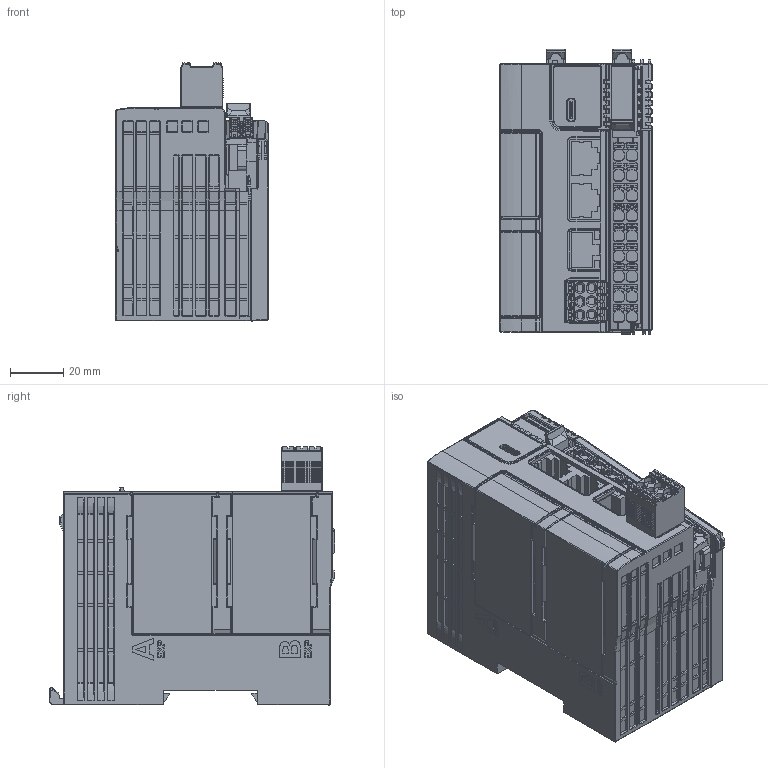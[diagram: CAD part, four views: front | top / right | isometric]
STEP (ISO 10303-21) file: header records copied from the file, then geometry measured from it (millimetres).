
FILE_DESCRIPTION((''),'2;1');
FILE_NAME('000-EASY523-WX_ASM_1_ASM','2022-07-05T',('10002586'),(''),'CREO PARAMETRIC BY PTC INC, 2015290','CREO PARAMETRIC BY PTC INC, 2015290','');
FILE_SCHEMA(('CONFIG_CONTROL_DESIGN'));
Products named in the file (3): 000-EASY523-WX_1; 20212484-WX_13; 000-EASY523-WX_ASM_1_ASM
Assembly tree (2 placements, depth 2):
  000-EASY523-WX_ASM_1_ASM
    000-EASY523-WX_1
    20212484-WX_13
Bounding box: 57 x 107.04 x 96.77 mm (x, y, z)
Volume: 406990.9 mm3; surface area: 72912.1 mm2
Topology: 2 solids, 2 shells, 6224 faces, 16767 edges, 10533 vertices
Faces by surface type: plane 3333, cylinder 1942, bspline 504, torus 202, extrusion 143, sphere 81, cone 18, revolution 1
Entity records: 248990 total; most frequent: CARTESIAN_POINT 99054, ORIENTED_EDGE 33360, DIRECTION 27988, EDGE_CURVE 16680, VECTOR 10995, LINE 10852, VERTEX_POINT 10533, AXIS2_PLACEMENT_3D 8496
